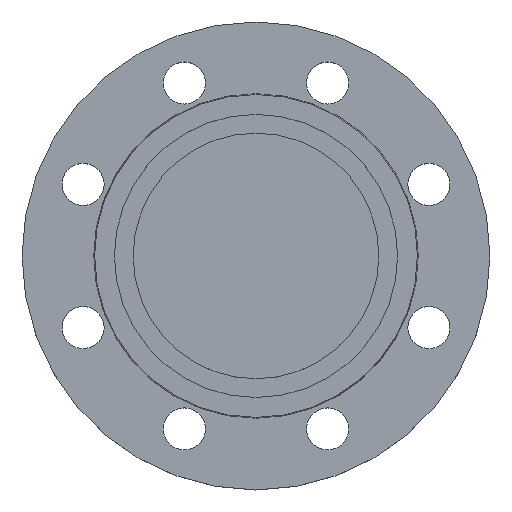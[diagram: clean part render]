
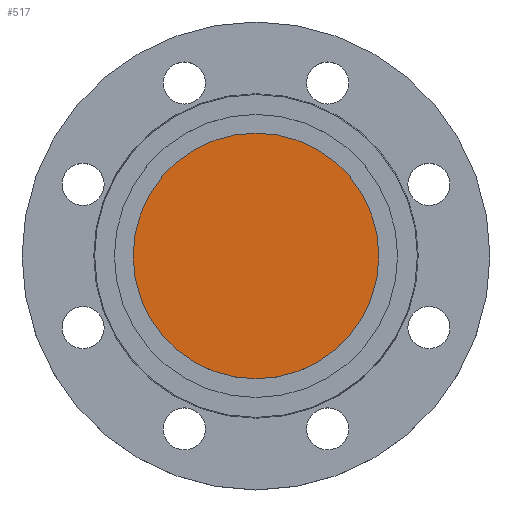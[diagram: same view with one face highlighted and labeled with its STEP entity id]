
A CAD part, top view. The second image highlights one B-rep face of the part: STEP entity #517.
In plain terms, the highlighted planar face has unit normal (0, 0, 1).
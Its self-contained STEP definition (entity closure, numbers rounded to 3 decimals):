
#125 = ORIENTED_EDGE ( 'NONE', *, *, #1195, .F. ) ;
#133 = ORIENTED_EDGE ( 'NONE', *, *, #1052, .F. ) ;
#159 = CARTESIAN_POINT ( 'NONE',  ( -52.5, 0., 0. ) ) ;
#164 = AXIS2_PLACEMENT_3D ( 'NONE', #505, #504, #502 ) ;
#227 = CARTESIAN_POINT ( 'NONE',  ( 52.5, 0., 0. ) ) ;
#382 = CARTESIAN_POINT ( 'NONE',  ( 0., 0., 0. ) ) ;
#414 = DIRECTION ( 'NONE',  ( 0., 0., -1. ) ) ;
#450 = AXIS2_PLACEMENT_3D ( 'NONE', #382, #1051, #1134 ) ;
#502 = DIRECTION ( 'NONE',  ( 1., 0., 0. ) ) ;
#504 = DIRECTION ( 'NONE',  ( 0., 0., 1. ) ) ;
#505 = CARTESIAN_POINT ( 'NONE',  ( 0., 0., 0. ) ) ;
#506 = PLANE ( 'NONE',  #164 ) ;
#508 = FACE_OUTER_BOUND ( 'NONE', #960, .T. ) ;
#517 = ADVANCED_FACE ( 'NONE', ( #508 ), #506, .T. ) ;
#572 = CARTESIAN_POINT ( 'NONE',  ( 0., 0., 0. ) ) ;
#655 = CIRCLE ( 'NONE', #913, 52.5 ) ;
#824 = VERTEX_POINT ( 'NONE', #227 ) ;
#891 = VERTEX_POINT ( 'NONE', #159 ) ;
#913 = AXIS2_PLACEMENT_3D ( 'NONE', #572, #414, #1171 ) ;
#919 = CIRCLE ( 'NONE', #450, 52.5 ) ;
#960 = EDGE_LOOP ( 'NONE', ( #125, #133 ) ) ;
#1051 = DIRECTION ( 'NONE',  ( 0., 0., -1. ) ) ;
#1052 = EDGE_CURVE ( 'NONE', #824, #891, #655, .T. ) ;
#1134 = DIRECTION ( 'NONE',  ( -1., 0., 0. ) ) ;
#1171 = DIRECTION ( 'NONE',  ( -1., 0., 0. ) ) ;
#1195 = EDGE_CURVE ( 'NONE', #891, #824, #919, .T. ) ;
